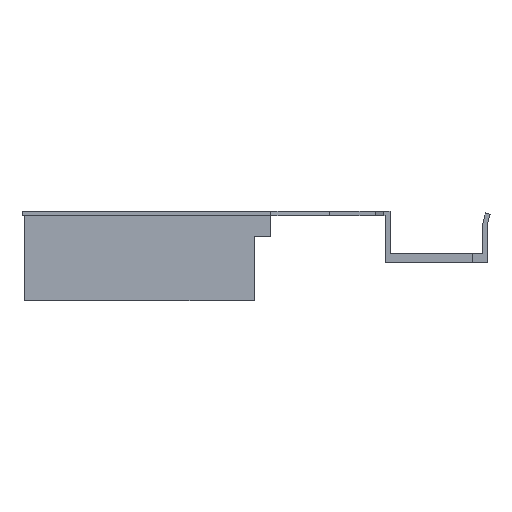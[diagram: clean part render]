
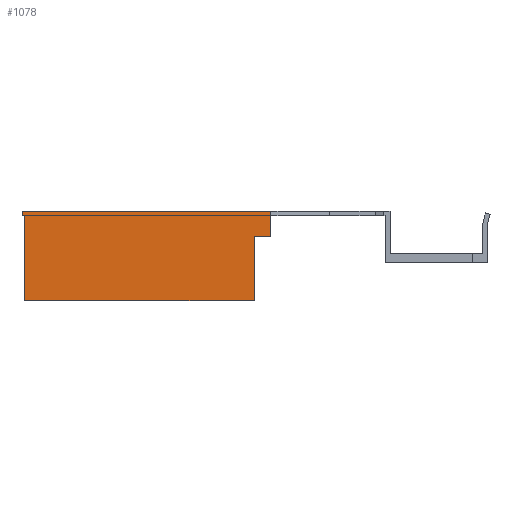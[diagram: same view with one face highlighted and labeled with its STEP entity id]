
A CAD part, left-side view. The second image highlights one B-rep face of the part: STEP entity #1078.
In plain terms, the highlighted planar face has unit normal (-1, 0, 0).
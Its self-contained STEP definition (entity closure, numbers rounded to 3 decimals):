
#27 = CARTESIAN_POINT ( 'NONE',  ( -717., 65., 6.7 ) ) ;
#36 = CARTESIAN_POINT ( 'NONE',  ( -717., 65.5, 6.7 ) ) ;
#37 = CARTESIAN_POINT ( 'NONE',  ( -717., 24.2, 3. ) ) ;
#45 = CARTESIAN_POINT ( 'NONE',  ( -717., 65., -8.5 ) ) ;
#55 = CARTESIAN_POINT ( 'NONE',  ( -717., 24.2, -8.5 ) ) ;
#57 = CARTESIAN_POINT ( 'NONE',  ( -717., 21.2, 3. ) ) ;
#76 = VERTEX_POINT ( 'NONE', #57 ) ;
#78 = VERTEX_POINT ( 'NONE', #55 ) ;
#88 = VERTEX_POINT ( 'NONE', #45 ) ;
#96 = VERTEX_POINT ( 'NONE', #37 ) ;
#97 = VERTEX_POINT ( 'NONE', #36 ) ;
#106 = VERTEX_POINT ( 'NONE', #27 ) ;
#128 = VERTEX_POINT ( 'NONE', #1126 ) ;
#142 = VERTEX_POINT ( 'NONE', #1140 ) ;
#252 = EDGE_LOOP ( 'NONE', ( #547, #548, #549, #550, #551, #552, #553, #554 ) ) ;
#309 = EDGE_CURVE ( 'NONE', #97, #142, #747, .T. ) ;
#323 = EDGE_CURVE ( 'NONE', #142, #128, #770, .T. ) ;
#390 = EDGE_CURVE ( 'NONE', #106, #97, #897, .T. ) ;
#404 = EDGE_CURVE ( 'NONE', #78, #96, #925, .T. ) ;
#405 = EDGE_CURVE ( 'NONE', #106, #88, #888, .T. ) ;
#406 = EDGE_CURVE ( 'NONE', #96, #76, #929, .T. ) ;
#408 = EDGE_CURVE ( 'NONE', #128, #76, #933, .T. ) ;
#411 = EDGE_CURVE ( 'NONE', #88, #78, #939, .T. ) ;
#466 = AXIS2_PLACEMENT_3D ( 'NONE', #1514, #1520, #1521 ) ;
#547 = ORIENTED_EDGE ( 'NONE', *, *, #390, .F. ) ;
#548 = ORIENTED_EDGE ( 'NONE', *, *, #405, .T. ) ;
#549 = ORIENTED_EDGE ( 'NONE', *, *, #411, .T. ) ;
#550 = ORIENTED_EDGE ( 'NONE', *, *, #404, .T. ) ;
#551 = ORIENTED_EDGE ( 'NONE', *, *, #406, .T. ) ;
#552 = ORIENTED_EDGE ( 'NONE', *, *, #408, .F. ) ;
#553 = ORIENTED_EDGE ( 'NONE', *, *, #323, .F. ) ;
#554 = ORIENTED_EDGE ( 'NONE', *, *, #309, .F. ) ;
#747 = LINE ( 'NONE', #1193, #748 ) ;
#748 = VECTOR ( 'NONE', #1194, 1000. ) ;
#770 = LINE ( 'NONE', #1219, #775 ) ;
#775 = VECTOR ( 'NONE', #1223, 1000. ) ;
#888 = LINE ( 'NONE', #1387, #927 ) ;
#897 = LINE ( 'NONE', #1367, #898 ) ;
#898 = VECTOR ( 'NONE', #1368, 1000. ) ;
#925 = LINE ( 'NONE', #1395, #926 ) ;
#926 = VECTOR ( 'NONE', #1396, 1000. ) ;
#927 = VECTOR ( 'NONE', #1398, 1000. ) ;
#929 = LINE ( 'NONE', #1399, #930 ) ;
#930 = VECTOR ( 'NONE', #1400, 1000. ) ;
#933 = LINE ( 'NONE', #1403, #934 ) ;
#934 = VECTOR ( 'NONE', #1404, 1000. ) ;
#939 = LINE ( 'NONE', #1409, #940 ) ;
#940 = VECTOR ( 'NONE', #1410, 1000. ) ;
#1012 = FACE_OUTER_BOUND ( 'NONE', #252, .T. ) ;
#1078 = ADVANCED_FACE ( 'NONE', ( #1012 ), #1511, .T. ) ;
#1126 = CARTESIAN_POINT ( 'NONE',  ( -717., 21.2, 7.5 ) ) ;
#1140 = CARTESIAN_POINT ( 'NONE',  ( -717., 65.5, 7.5 ) ) ;
#1193 = CARTESIAN_POINT ( 'NONE',  ( -717., 65.5, 7.5 ) ) ;
#1194 = DIRECTION ( 'NONE',  ( 0., 0., 1. ) ) ;
#1219 = CARTESIAN_POINT ( 'NONE',  ( -717., 0., 7.5 ) ) ;
#1223 = DIRECTION ( 'NONE',  ( 0., -1., 0. ) ) ;
#1367 = CARTESIAN_POINT ( 'NONE',  ( -717., 0.8, 6.7 ) ) ;
#1368 = DIRECTION ( 'NONE',  ( 0., 1., 0. ) ) ;
#1387 = CARTESIAN_POINT ( 'NONE',  ( -717., 65., 7.5 ) ) ;
#1395 = CARTESIAN_POINT ( 'NONE',  ( -717., 24.2, -8.5 ) ) ;
#1396 = DIRECTION ( 'NONE',  ( 0., 0., 1. ) ) ;
#1398 = DIRECTION ( 'NONE',  ( 0., 0., -1. ) ) ;
#1399 = CARTESIAN_POINT ( 'NONE',  ( -717., 24.2, 3. ) ) ;
#1400 = DIRECTION ( 'NONE',  ( 0., -1., 0. ) ) ;
#1403 = CARTESIAN_POINT ( 'NONE',  ( -717., 21.2, 0. ) ) ;
#1404 = DIRECTION ( 'NONE',  ( 0., 0., -1. ) ) ;
#1409 = CARTESIAN_POINT ( 'NONE',  ( -717., 65., -8.5 ) ) ;
#1410 = DIRECTION ( 'NONE',  ( 0., -1., 0. ) ) ;
#1511 = PLANE ( 'NONE',  #466 ) ;
#1514 = CARTESIAN_POINT ( 'NONE',  ( -717., -16.5, 0. ) ) ;
#1520 = DIRECTION ( 'NONE',  ( -1., 0., 0. ) ) ;
#1521 = DIRECTION ( 'NONE',  ( 0., 0., 1. ) ) ;
